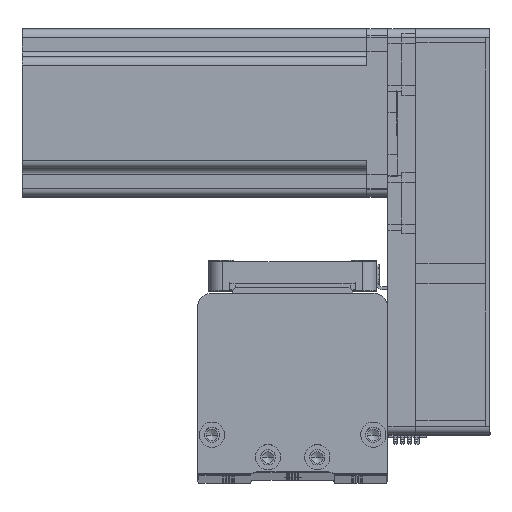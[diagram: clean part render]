
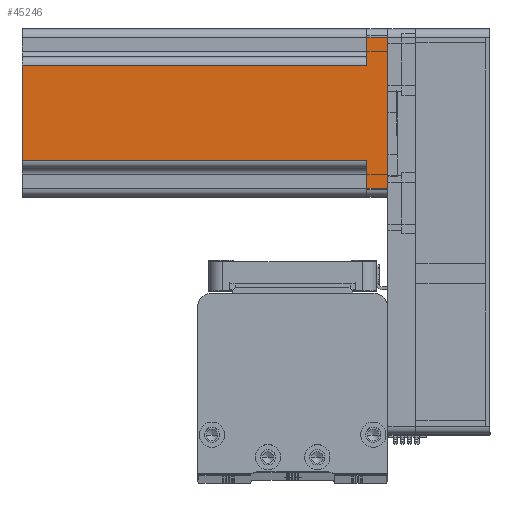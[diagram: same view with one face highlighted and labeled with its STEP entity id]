
A CAD part, top view. The second image highlights one B-rep face of the part: STEP entity #45246.
In plain terms, the highlighted planar face has unit normal (0, 0, 1) as drawn and (0, -1, 0) by its records, which use the part's own axes.
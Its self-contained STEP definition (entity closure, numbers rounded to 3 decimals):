
#1526 = ORIENTED_EDGE ( 'NONE', *, *, #19970, .T. ) ;
#1620 = EDGE_CURVE ( 'NONE', #48747, #19199, #25012, .T. ) ;
#3797 = CARTESIAN_POINT ( 'NONE',  ( 17., -30., 7.5 ) ) ;
#5755 = VECTOR ( 'NONE', #10362, 1000. ) ;
#5814 = VECTOR ( 'NONE', #29149, 1000. ) ;
#6268 = DIRECTION ( 'NONE',  ( 1., 0., 0. ) ) ;
#6417 = VERTEX_POINT ( 'NONE', #27040 ) ;
#6654 = ORIENTED_EDGE ( 'NONE', *, *, #41138, .T. ) ;
#10115 = VECTOR ( 'NONE', #26581, 1000. ) ;
#10362 = DIRECTION ( 'NONE',  ( 1., 0., 0. ) ) ;
#10428 = CARTESIAN_POINT ( 'NONE',  ( 30., -30., 130.7 ) ) ;
#11939 = ORIENTED_EDGE ( 'NONE', *, *, #14632, .F. ) ;
#12412 = EDGE_LOOP ( 'NONE', ( #22233, #14164, #11939, #6654, #16252, #1526, #45113, #32323 ) ) ;
#12577 = CARTESIAN_POINT ( 'NONE',  ( 27., -30., 130.7 ) ) ;
#14164 = ORIENTED_EDGE ( 'NONE', *, *, #38573, .T. ) ;
#14171 = VECTOR ( 'NONE', #21052, 1000. ) ;
#14462 = VECTOR ( 'NONE', #6268, 1000. ) ;
#14499 = CARTESIAN_POINT ( 'NONE',  ( 30., -30., 0. ) ) ;
#14632 = EDGE_CURVE ( 'NONE', #24108, #6417, #31862, .T. ) ;
#15109 = EDGE_CURVE ( 'NONE', #33104, #50440, #15734, .T. ) ;
#15492 = DIRECTION ( 'NONE',  ( 0., 0., 1. ) ) ;
#15734 = LINE ( 'NONE', #10428, #14462 ) ;
#16252 = ORIENTED_EDGE ( 'NONE', *, *, #33064, .T. ) ;
#16587 = LINE ( 'NONE', #40012, #38377 ) ;
#18011 = VECTOR ( 'NONE', #20762, 1000. ) ;
#19199 = VERTEX_POINT ( 'NONE', #3797 ) ;
#19715 = CARTESIAN_POINT ( 'NONE',  ( 27., -30., 0. ) ) ;
#19970 = EDGE_CURVE ( 'NONE', #36538, #48747, #28862, .T. ) ;
#20762 = DIRECTION ( 'NONE',  ( 0., 0., 1. ) ) ;
#21052 = DIRECTION ( 'NONE',  ( -1., 0., 0. ) ) ;
#21981 = DIRECTION ( 'NONE',  ( 0., 1., 0. ) ) ;
#22233 = ORIENTED_EDGE ( 'NONE', *, *, #15109, .F. ) ;
#24108 = VERTEX_POINT ( 'NONE', #31899 ) ;
#25012 = LINE ( 'NONE', #45603, #14171 ) ;
#26365 = CARTESIAN_POINT ( 'NONE',  ( 17., -30., 130.7 ) ) ;
#26581 = DIRECTION ( 'NONE',  ( 1., 0., 0. ) ) ;
#27040 = CARTESIAN_POINT ( 'NONE',  ( -17., -30., 7.5 ) ) ;
#28683 = FACE_OUTER_BOUND ( 'NONE', #12412, .T. ) ;
#28862 = LINE ( 'NONE', #12577, #18011 ) ;
#29149 = DIRECTION ( 'NONE',  ( 0., 0., -1. ) ) ;
#30730 = CARTESIAN_POINT ( 'NONE',  ( -20., -30., 7.5 ) ) ;
#31537 = AXIS2_PLACEMENT_3D ( 'NONE', #46500, #21981, #50654 ) ;
#31862 = LINE ( 'NONE', #30730, #10115 ) ;
#31899 = CARTESIAN_POINT ( 'NONE',  ( -27., -30., 7.5 ) ) ;
#32323 = ORIENTED_EDGE ( 'NONE', *, *, #42693, .T. ) ;
#33064 = EDGE_CURVE ( 'NONE', #44857, #36538, #37158, .T. ) ;
#33104 = VERTEX_POINT ( 'NONE', #47717 ) ;
#36538 = VERTEX_POINT ( 'NONE', #19715 ) ;
#36987 = CARTESIAN_POINT ( 'NONE',  ( -17., -30., 130.7 ) ) ;
#37158 = LINE ( 'NONE', #14499, #5755 ) ;
#38286 = CARTESIAN_POINT ( 'NONE',  ( -27., -30., 130.7 ) ) ;
#38377 = VECTOR ( 'NONE', #15492, 1000. ) ;
#38549 = LINE ( 'NONE', #36987, #5814 ) ;
#38573 = EDGE_CURVE ( 'NONE', #33104, #6417, #38549, .T. ) ;
#39288 = VECTOR ( 'NONE', #42401, 1000. ) ;
#40012 = CARTESIAN_POINT ( 'NONE',  ( 17., -30., 130.7 ) ) ;
#40575 = LINE ( 'NONE', #38286, #39288 ) ;
#41138 = EDGE_CURVE ( 'NONE', #24108, #44857, #40575, .T. ) ;
#42401 = DIRECTION ( 'NONE',  ( 0., 0., -1. ) ) ;
#42693 = EDGE_CURVE ( 'NONE', #19199, #50440, #16587, .T. ) ;
#43643 = CARTESIAN_POINT ( 'NONE',  ( 27., -30., 7.5 ) ) ;
#44857 = VERTEX_POINT ( 'NONE', #52292 ) ;
#45113 = ORIENTED_EDGE ( 'NONE', *, *, #1620, .T. ) ;
#45246 = ADVANCED_FACE ( 'NONE', ( #28683 ), #50282, .F. ) ;
#45603 = CARTESIAN_POINT ( 'NONE',  ( 20., -30., 7.5 ) ) ;
#46500 = CARTESIAN_POINT ( 'NONE',  ( 30., -30., 130.7 ) ) ;
#47717 = CARTESIAN_POINT ( 'NONE',  ( -17., -30., 130.7 ) ) ;
#48747 = VERTEX_POINT ( 'NONE', #43643 ) ;
#50282 = PLANE ( 'NONE',  #31537 ) ;
#50440 = VERTEX_POINT ( 'NONE', #26365 ) ;
#50654 = DIRECTION ( 'NONE',  ( -1., 0., 0. ) ) ;
#52292 = CARTESIAN_POINT ( 'NONE',  ( -27., -30., 0. ) ) ;
